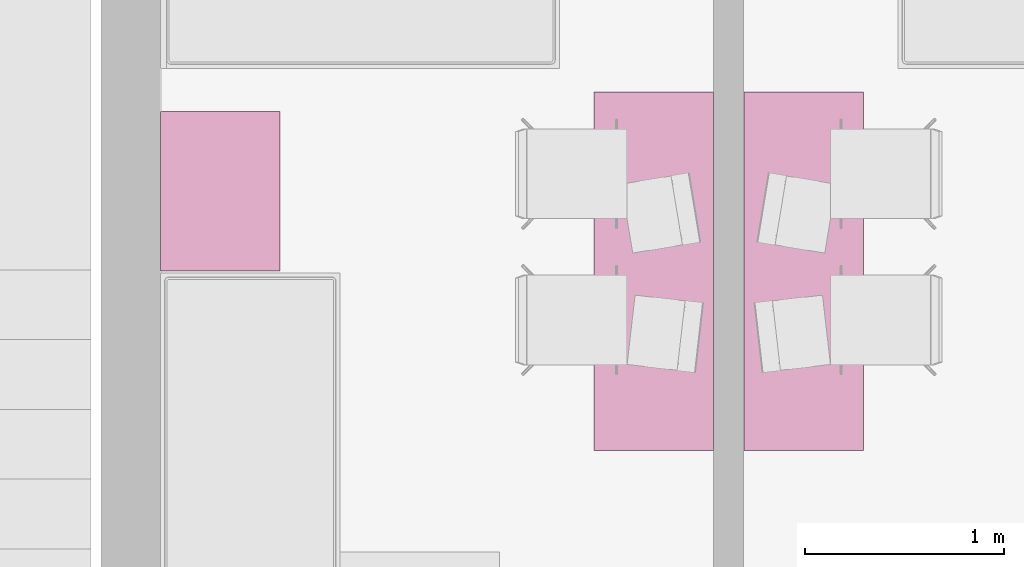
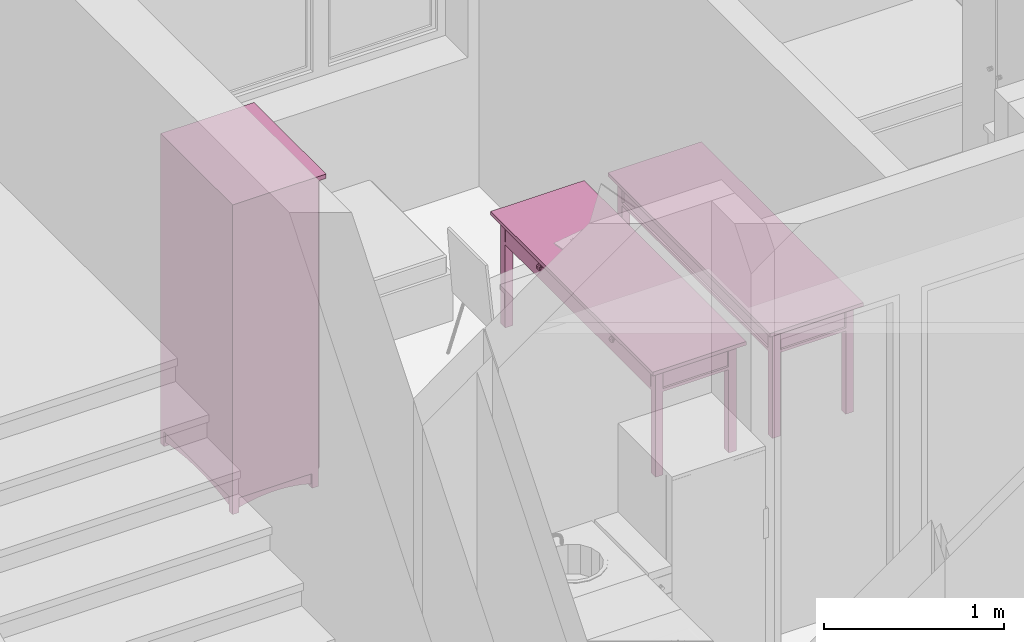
# One storey, part 128 of 165: 3 furnishings.
"""IFC2X3 building model written with IfcOpenShell, lengths in millimetres."""

from ifc_helpers import new_model, entity, si_unit, converted_unit, money_unit, direction, frame, origin_with_axes, place, context, subcontext, project, spatial, faceted_brep, source, transform, mapped, material, material_list, type_object, element, save


model = new_model("IFC2X3")

# Units and contexts
model_context = context("Model", 3, precision=1e-05, world=origin_with_axes(), true_north=direction((0.0, 1.0)))
body_context = subcontext(model_context, "Body", "Model", "MODEL_VIEW")
ifc_project = project(units=[si_unit("LENGTHUNIT", "METRE", prefix="MILLI"), si_unit("AREAUNIT", "SQUARE_METRE"), si_unit("VOLUMEUNIT", "CUBIC_METRE"), converted_unit("PLANEANGLEUNIT", "DEGREE", entity("IfcPlaneAngleMeasure", 0.0174532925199), si_unit("PLANEANGLEUNIT", "RADIAN"), dimensions=[0, 0, 0, 0, 0, 0, 0]), si_unit("SOLIDANGLEUNIT", "STERADIAN"), money_unit("USD"), converted_unit("TIMEUNIT", "Year", entity("IfcTimeMeasure", 31556926.0), si_unit("TIMEUNIT", "SECOND"), dimensions=[0, 0, 0, 0, 0, 0, 0]), si_unit("MASSUNIT", "GRAM"), si_unit("THERMODYNAMICTEMPERATUREUNIT", "DEGREE_CELSIUS"), si_unit("LUMINOUSINTENSITYUNIT", "LUMEN")], contexts=[model_context])

# Site, building, storey
site_placement = place(None, origin_with_axes())
site = spatial("IfcSite", under=ifc_project, at=site_placement, Name="Site", CompositionType="ELEMENT")
building_placement = place(site_placement, origin_with_axes())
building = spatial("IfcBuilding", under=site, at=building_placement, Name="Building", CompositionType="ELEMENT")
storey_placement = place(building_placement, frame((0.0, 0.0, 6300.0), z_axis=(0.0, 0.0, 1.0), x_axis=(1.0, 0.0, 0.0)))
storey = spatial("IfcBuildingStorey", under=building, at=storey_placement, Name="4KORRUS", CompositionType="ELEMENT", Elevation=6300.0)

# Furnishings
ifc_material = material(Name="Background")
ifc_material_list = material_list([ifc_material])
furnishing_element_type_1 = type_object("IfcFurnishingElementType", Name="Cupboard 19")
shared_shape_1 = source(origin_with_axes(), body_context, "Body", "Brep", [
    faceted_brep([(780.0, 600.0, 120.0), (780.0, 600.0, 2050.0), (780.0, 580.0, 2050.0), (780.0, 580.0, 120.0), (20.0, 600.0, 120.0), (20.0, 600.0, 2050.0), (20.0, 580.0, 2050.0), (20.0, 580.0, 120.0)], [[[0, 1, 2, 3]], [[4, 5, 1, 0]], [[1, 5, 6, 2]], [[3, 2, 6, 7]], [[0, 3, 7, 4]], [[7, 6, 5, 4]]]),
    faceted_brep([(0.0, 50.0, 100.0), (0.0, 600.0, 100.0), (20.0, 600.0, 100.0), (20.0, 50.0, 100.0), (0.0, 50.0, 2070.0), (0.0, 600.0, 2070.0), (20.0, 600.0, 2070.0), (20.0, 50.0, 2070.0)], [[[0, 1, 2, 3]], [[0, 4, 5, 1]], [[1, 5, 6, 2]], [[2, 6, 7, 3]], [[3, 7, 4, 0]], [[7, 6, 5, 4]]]),
    faceted_brep([(780.0, 50.0, 100.0), (780.0, 600.0, 100.0), (800.0, 600.0, 100.0), (800.0, 50.0, 100.0), (780.0, 50.0, 2070.0), (780.0, 600.0, 2070.0), (800.0, 600.0, 2070.0), (800.0, 50.0, 2070.0)], [[[0, 1, 2, 3]], [[0, 4, 5, 1]], [[1, 5, 6, 2]], [[2, 6, 7, 3]], [[3, 7, 4, 0]], [[7, 6, 5, 4]]]),
    faceted_brep([(20.0, 50.0, 100.0), (20.0, 600.0, 100.0), (780.0, 600.0, 100.0), (780.0, 50.0, 100.0), (20.0, 50.0, 120.0), (20.0, 600.0, 120.0), (780.0, 600.0, 120.0), (780.0, 50.0, 120.0)], [[[0, 1, 2, 3]], [[0, 4, 5, 1]], [[1, 5, 6, 2]], [[2, 6, 7, 3]], [[3, 7, 4, 0]], [[7, 6, 5, 4]]]),
    faceted_brep([(20.0, 50.0, 2050.0), (20.0, 600.0, 2050.0), (780.0, 600.0, 2050.0), (780.0, 50.0, 2050.0), (20.0, 50.0, 2070.0), (20.0, 600.0, 2070.0), (780.0, 600.0, 2070.0), (780.0, 50.0, 2070.0)], [[[0, 1, 2, 3]], [[0, 4, 5, 1]], [[1, 5, 6, 2]], [[2, 6, 7, 3]], [[3, 7, 4, 0]], [[7, 6, 5, 4]]]),
    faceted_brep([(0.0, 600.0, 2070.0), (0.0, 0.0, 2070.0), (0.0, 0.0, 2100.0), (0.0, 600.0, 2100.0), (800.0, 600.0, 2070.0), (800.0, 0.0, 2070.0), (800.0, 0.0, 2100.0), (800.0, 600.0, 2100.0)], [[[0, 1, 2, 3]], [[0, 4, 5, 1]], [[1, 5, 6, 2]], [[3, 2, 6, 7]], [[4, 0, 3, 7]], [[5, 4, 7, 6]]]),
    faceted_brep([(760.0, 590.0, 25.0), (760.0, 570.0, 25.0), (640.962, 570.0, 45.8), (640.962, 590.0, 45.8), (760.0, 590.0, 100.0), (760.0, 570.0, 100.0), (40.0, 570.0, 100.0), (40.0, 570.0, 25.0), (159.038, 570.0, 45.8), (279.23, 570.0, 58.32), (400.0, 570.0, 62.5), (520.77, 570.0, 58.32), (520.77, 590.0, 58.32), (400.0, 590.0, 62.5), (279.23, 590.0, 58.32), (159.038, 590.0, 45.8), (40.0, 590.0, 25.0), (40.0, 590.0, 100.0)], [[[0, 1, 2, 3]], [[4, 5, 1, 0]], [[1, 5, 6, 7, 8, 9, 10, 11, 2]], [[3, 2, 11, 12]], [[0, 3, 12, 13, 14, 15, 16, 17, 4]], [[17, 6, 5, 4]], [[16, 7, 6, 17]], [[15, 8, 7, 16]], [[14, 9, 8, 15]], [[13, 10, 9, 14]], [[12, 11, 10, 13]]]),
    faceted_brep([(760.0, 80.0, 25.0), (760.0, 60.0, 25.0), (640.962, 60.0, 45.8), (640.962, 80.0, 45.8), (760.0, 80.0, 100.0), (760.0, 60.0, 100.0), (40.0, 60.0, 100.0), (40.0, 60.0, 25.0), (159.038, 60.0, 45.8), (279.23, 60.0, 58.32), (400.0, 60.0, 62.5), (520.77, 60.0, 58.32), (520.77, 80.0, 58.32), (400.0, 80.0, 62.5), (279.23, 80.0, 58.32), (159.038, 80.0, 45.8), (40.0, 80.0, 25.0), (40.0, 80.0, 100.0)], [[[0, 1, 2, 3]], [[4, 5, 1, 0]], [[1, 5, 6, 7, 8, 9, 10, 11, 2]], [[3, 2, 11, 12]], [[0, 3, 12, 13, 14, 15, 16, 17, 4]], [[17, 6, 5, 4]], [[16, 7, 6, 17]], [[15, 8, 7, 16]], [[14, 9, 8, 15]], [[13, 10, 9, 14]], [[12, 11, 10, 13]]]),
    faceted_brep([(790.0, 90.0, 25.0), (770.0, 90.0, 25.0), (770.0, 141.266, 38.072), (790.0, 141.266, 38.072), (790.0, 90.0, 100.0), (770.0, 90.0, 100.0), (770.0, 560.0, 100.0), (770.0, 560.0, 25.0), (770.0, 508.734, 38.072), (770.0, 456.752, 47.92), (770.0, 404.257, 54.508), (770.0, 351.453, 57.808), (770.0, 298.547, 57.808), (770.0, 245.743, 54.508), (770.0, 193.248, 47.92), (790.0, 193.248, 47.92), (790.0, 245.743, 54.508), (790.0, 298.547, 57.808), (790.0, 351.453, 57.808), (790.0, 404.257, 54.508), (790.0, 456.752, 47.92), (790.0, 508.734, 38.072), (790.0, 560.0, 25.0), (790.0, 560.0, 100.0)], [[[0, 1, 2, 3]], [[4, 5, 1, 0]], [[1, 5, 6, 7, 8, 9, 10, 11, 12, 13, 14, 2]], [[3, 2, 14, 15]], [[0, 3, 15, 16, 17, 18, 19, 20, 21, 22, 23, 4]], [[23, 6, 5, 4]], [[22, 7, 6, 23]], [[21, 8, 7, 22]], [[20, 9, 8, 21]], [[19, 10, 9, 20]], [[18, 11, 10, 19]], [[17, 12, 11, 18]], [[16, 13, 12, 17]], [[15, 14, 13, 16]]]),
    faceted_brep([(30.0, 90.0, 25.0), (10.0, 90.0, 25.0), (10.0, 141.266, 38.072), (30.0, 141.266, 38.072), (30.0, 90.0, 100.0), (10.0, 90.0, 100.0), (10.0, 560.0, 100.0), (10.0, 560.0, 25.0), (10.0, 508.734, 38.072), (10.0, 456.752, 47.92), (10.0, 404.257, 54.508), (10.0, 351.453, 57.808), (10.0, 298.547, 57.808), (10.0, 245.743, 54.508), (10.0, 193.248, 47.92), (30.0, 193.248, 47.92), (30.0, 245.743, 54.508), (30.0, 298.547, 57.808), (30.0, 351.453, 57.808), (30.0, 404.257, 54.508), (30.0, 456.752, 47.92), (30.0, 508.734, 38.072), (30.0, 560.0, 25.0), (30.0, 560.0, 100.0)], [[[0, 1, 2, 3]], [[4, 5, 1, 0]], [[1, 5, 6, 7, 8, 9, 10, 11, 12, 13, 14, 2]], [[3, 2, 14, 15]], [[0, 3, 15, 16, 17, 18, 19, 20, 21, 22, 23, 4]], [[23, 6, 5, 4]], [[22, 7, 6, 23]], [[21, 8, 7, 22]], [[20, 9, 8, 21]], [[19, 10, 9, 20]], [[18, 11, 10, 19]], [[17, 12, 11, 18]], [[16, 13, 12, 17]], [[15, 14, 13, 16]]]),
    faceted_brep([(760.0, 560.0, 0.0), (760.0, 560.0, 100.0), (760.0, 600.0, 100.0), (760.0, 600.0, 0.0), (800.0, 560.0, 0.0), (800.0, 560.0, 100.0), (800.0, 600.0, 100.0), (800.0, 600.0, 0.0)], [[[0, 1, 2, 3]], [[4, 5, 1, 0]], [[1, 5, 6, 2]], [[3, 2, 6, 7]], [[0, 3, 7, 4]], [[7, 6, 5, 4]]]),
    faceted_brep([(0.0, 560.0, 0.0), (0.0, 560.0, 100.0), (0.0, 600.0, 100.0), (0.0, 600.0, 0.0), (40.0, 560.0, 0.0), (40.0, 560.0, 100.0), (40.0, 600.0, 100.0), (40.0, 600.0, 0.0)], [[[0, 1, 2, 3]], [[4, 5, 1, 0]], [[1, 5, 6, 2]], [[3, 2, 6, 7]], [[0, 3, 7, 4]], [[7, 6, 5, 4]]]),
    faceted_brep([(760.0, 50.0, 0.0), (760.0, 50.0, 100.0), (760.0, 90.0, 100.0), (760.0, 90.0, 0.0), (800.0, 50.0, 0.0), (800.0, 50.0, 100.0), (800.0, 90.0, 100.0), (800.0, 90.0, 0.0)], [[[0, 1, 2, 3]], [[4, 5, 1, 0]], [[1, 5, 6, 2]], [[3, 2, 6, 7]], [[0, 3, 7, 4]], [[7, 6, 5, 4]]]),
    faceted_brep([(0.0, 50.0, 0.0), (0.0, 50.0, 100.0), (0.0, 90.0, 100.0), (0.0, 90.0, 0.0), (40.0, 50.0, 0.0), (40.0, 50.0, 100.0), (40.0, 90.0, 100.0), (40.0, 90.0, 0.0)], [[[0, 1, 2, 3]], [[4, 5, 1, 0]], [[1, 5, 6, 2]], [[3, 2, 6, 7]], [[0, 3, 7, 4]], [[7, 6, 5, 4]]]),
    faceted_brep([(780.0, 580.0, 587.5), (780.0, 580.0, 607.5), (780.0, 50.0, 607.5), (780.0, 50.0, 587.5), (20.0, 580.0, 587.5), (20.0, 580.0, 607.5), (20.0, 50.0, 607.5), (20.0, 50.0, 587.5)], [[[0, 1, 2, 3]], [[4, 5, 1, 0]], [[1, 5, 6, 2]], [[3, 2, 6, 7]], [[0, 3, 7, 4]], [[7, 6, 5, 4]]]),
    faceted_brep([(780.0, 580.0, 1075.0), (780.0, 580.0, 1095.0), (780.0, 50.0, 1095.0), (780.0, 50.0, 1075.0), (20.0, 580.0, 1075.0), (20.0, 580.0, 1095.0), (20.0, 50.0, 1095.0), (20.0, 50.0, 1075.0)], [[[0, 1, 2, 3]], [[4, 5, 1, 0]], [[1, 5, 6, 2]], [[3, 2, 6, 7]], [[0, 3, 7, 4]], [[7, 6, 5, 4]]]),
    faceted_brep([(780.0, 580.0, 1562.5), (780.0, 580.0, 1582.5), (780.0, 50.0, 1582.5), (780.0, 50.0, 1562.5), (20.0, 580.0, 1562.5), (20.0, 580.0, 1582.5), (20.0, 50.0, 1582.5), (20.0, 50.0, 1562.5)], [[[0, 1, 2, 3]], [[4, 5, 1, 0]], [[1, 5, 6, 2]], [[3, 2, 6, 7]], [[0, 3, 7, 4]], [[7, 6, 5, 4]]]),
    faceted_brep([(789.5, 50.0, 110.5), (400.5, 50.0, 110.5), (400.5, 50.0, 2059.5), (789.5, 50.0, 2059.5), (789.5, 40.0, 110.5), (400.5, 40.0, 110.5), (400.5, 40.0, 2059.5), (789.5, 40.0, 2059.5), (779.5, 30.0, 120.5), (410.5, 30.0, 120.5), (410.5, 30.0, 2049.5), (779.5, 30.0, 2049.5)], [[[0, 1, 2, 3]], [[0, 4, 5, 1]], [[1, 5, 6, 2]], [[2, 6, 7, 3]], [[3, 7, 4, 0]], [[4, 8, 9, 5]], [[5, 9, 10, 6]], [[6, 10, 11, 7]], [[7, 11, 8, 4]], [[10, 9, 8, 11]]]),
    faceted_brep([(399.5, 50.0, 110.5), (10.5, 50.0, 110.5), (10.5, 50.0, 2059.5), (399.5, 50.0, 2059.5), (399.5, 40.0, 110.5), (10.5, 40.0, 110.5), (10.5, 40.0, 2059.5), (399.5, 40.0, 2059.5), (389.5, 30.0, 120.5), (20.5, 30.0, 120.5), (20.5, 30.0, 2049.5), (389.5, 30.0, 2049.5)], [[[0, 1, 2, 3]], [[0, 4, 5, 1]], [[1, 5, 6, 2]], [[2, 6, 7, 3]], [[3, 7, 4, 0]], [[4, 8, 9, 5]], [[5, 9, 10, 6]], [[6, 10, 11, 7]], [[7, 11, 8, 4]], [[10, 9, 8, 11]]]),
    faceted_brep([(339.608, 30.0, 954.0), (338.0, 30.0, 960.0), (339.608, 30.0, 966.0), (344.0, 30.0, 970.392), (350.0, 30.0, 972.0), (356.0, 30.0, 970.392), (360.392, 30.0, 966.0), (362.0, 30.0, 960.0), (360.392, 30.0, 954.0), (356.0, 30.0, 949.608), (350.0, 30.0, 948.0), (344.0, 30.0, 949.608), (339.608, 5.0, 954.0), (338.0, 5.0, 960.0), (339.608, 5.0, 966.0), (344.0, 5.0, 970.392), (350.0, 5.0, 972.0), (356.0, 5.0, 970.392), (360.392, 5.0, 966.0), (362.0, 5.0, 960.0), (360.392, 5.0, 954.0), (356.0, 5.0, 949.608), (350.0, 5.0, 948.0), (344.0, 5.0, 949.608)], [[[0, 1, 2, 3, 4, 5, 6, 7, 8, 9, 10, 11]], [[0, 12, 13, 1]], [[1, 13, 14, 2]], [[2, 14, 15, 3]], [[3, 15, 16, 4]], [[4, 16, 17, 5]], [[5, 17, 18, 6]], [[6, 18, 19, 7]], [[7, 19, 20, 8]], [[8, 20, 21, 9]], [[9, 21, 22, 10]], [[10, 22, 23, 11]], [[11, 23, 12, 0]], [[12, 23, 22, 21, 20, 19, 18, 17, 16, 15, 14, 13]]]),
    faceted_brep([(460.392, 30.0, 954.0), (456.0, 30.0, 949.608), (450.0, 30.0, 948.0), (444.0, 30.0, 949.608), (439.608, 30.0, 954.0), (438.0, 30.0, 960.0), (439.608, 30.0, 966.0), (444.0, 30.0, 970.392), (450.0, 30.0, 972.0), (456.0, 30.0, 970.392), (460.392, 30.0, 966.0), (462.0, 30.0, 960.0), (460.392, 5.0, 954.0), (456.0, 5.0, 949.608), (450.0, 5.0, 948.0), (444.0, 5.0, 949.608), (439.608, 5.0, 954.0), (438.0, 5.0, 960.0), (439.608, 5.0, 966.0), (444.0, 5.0, 970.392), (450.0, 5.0, 972.0), (456.0, 5.0, 970.392), (460.392, 5.0, 966.0), (462.0, 5.0, 960.0)], [[[0, 1, 2, 3, 4, 5, 6, 7, 8, 9, 10, 11]], [[1, 0, 12, 13]], [[2, 1, 13, 14]], [[3, 2, 14, 15]], [[4, 3, 15, 16]], [[5, 4, 16, 17]], [[6, 5, 17, 18]], [[7, 6, 18, 19]], [[8, 7, 19, 20]], [[9, 8, 20, 21]], [[10, 9, 21, 22]], [[11, 10, 22, 23]], [[0, 11, 23, 12]], [[12, 23, 22, 21, 20, 19, 18, 17, 16, 15, 14, 13]]]),
])
furnishing_1_placement = place(storey_placement, frame((-5390.29670331, -7206.41563755, 0.0), z_axis=(0.0, 0.0, 1.0), x_axis=(0.0, 1.0, 0.0)))
element("IfcFurnishingElement", 1, at=furnishing_1_placement, inside=storey, type_object=furnishing_element_type_1, material=ifc_material_list, Name="FU - 014", context=body_context, shape_type="MappedRepresentation", body=[
    mapped(shared_shape_1, transform((0.0, 0.0, 0.0))),
])
furnishing_element_type_2 = type_object("IfcFurnishingElementType", Name="Rectangular Table 01 19")
shared_shape_2 = source(origin_with_axes(), body_context, "Body", "Brep", [
    faceted_brep([(-90.0, 40.0, 0.0), (-90.0, 90.0, 0.0), (-40.0, 90.0, 0.0), (-40.0, 40.0, 0.0), (-90.0, 40.0, 725.0), (-90.0, 90.0, 725.0), (-40.0, 90.0, 725.0), (-40.0, 40.0, 725.0)], [[[0, 1, 2, 3]], [[0, 4, 5, 1]], [[1, 5, 6, 2]], [[2, 6, 7, 3]], [[3, 7, 4, 0]], [[7, 6, 5, 4]]]),
    faceted_brep([(-1760.0, 40.0, 0.0), (-1760.0, 90.0, 0.0), (-1710.0, 90.0, 0.0), (-1710.0, 40.0, 0.0), (-1760.0, 40.0, 725.0), (-1760.0, 90.0, 725.0), (-1710.0, 90.0, 725.0), (-1710.0, 40.0, 725.0)], [[[0, 1, 2, 3]], [[0, 4, 5, 1]], [[1, 5, 6, 2]], [[2, 6, 7, 3]], [[3, 7, 4, 0]], [[7, 6, 5, 4]]]),
    faceted_brep([(-90.0, 510.0, 0.0), (-90.0, 560.0, 0.0), (-40.0, 560.0, 0.0), (-40.0, 510.0, 0.0), (-90.0, 510.0, 725.0), (-90.0, 560.0, 725.0), (-40.0, 560.0, 725.0), (-40.0, 510.0, 725.0)], [[[0, 1, 2, 3]], [[0, 4, 5, 1]], [[1, 5, 6, 2]], [[2, 6, 7, 3]], [[3, 7, 4, 0]], [[7, 6, 5, 4]]]),
    faceted_brep([(-1760.0, 510.0, 0.0), (-1760.0, 560.0, 0.0), (-1710.0, 560.0, 0.0), (-1710.0, 510.0, 0.0), (-1760.0, 510.0, 725.0), (-1760.0, 560.0, 725.0), (-1710.0, 560.0, 725.0), (-1710.0, 510.0, 725.0)], [[[0, 1, 2, 3]], [[0, 4, 5, 1]], [[1, 5, 6, 2]], [[2, 6, 7, 3]], [[3, 7, 4, 0]], [[7, 6, 5, 4]]]),
    faceted_brep([(-1760.0, 40.0, 565.0), (-1760.0, 560.0, 565.0), (-40.0, 560.0, 565.0), (-40.0, 40.0, 565.0), (-1760.0, 40.0, 585.0), (-1760.0, 560.0, 585.0), (-40.0, 560.0, 585.0), (-40.0, 40.0, 585.0)], [[[0, 1, 2, 3]], [[0, 4, 5, 1]], [[1, 5, 6, 2]], [[2, 6, 7, 3]], [[3, 7, 4, 0]], [[7, 6, 5, 4]]]),
    faceted_brep([(-1710.0, 52.5, 585.0), (-1710.0, 77.5, 585.0), (-90.0, 77.5, 585.0), (-90.0, 52.5, 585.0), (-1710.0, 52.5, 745.0), (-1710.0, 77.5, 745.0), (-90.0, 77.5, 745.0), (-90.0, 52.5, 745.0)], [[[0, 1, 2, 3]], [[0, 4, 5, 1]], [[1, 5, 6, 2]], [[2, 6, 7, 3]], [[3, 7, 4, 0]], [[7, 6, 5, 4]]]),
    faceted_brep([(-77.5, 90.0, 585.0), (-77.5, 510.0, 585.0), (-52.5, 510.0, 585.0), (-52.5, 90.0, 585.0), (-77.5, 90.0, 745.0), (-77.5, 510.0, 745.0), (-52.5, 510.0, 745.0), (-52.5, 90.0, 745.0)], [[[0, 1, 2, 3]], [[0, 4, 5, 1]], [[1, 5, 6, 2]], [[2, 6, 7, 3]], [[3, 7, 4, 0]], [[7, 6, 5, 4]]]),
    faceted_brep([(-90.0, 547.5, 585.0), (-90.0, 522.5, 585.0), (-1710.0, 522.5, 585.0), (-1710.0, 547.5, 585.0), (-90.0, 547.5, 745.0), (-90.0, 522.5, 745.0), (-1710.0, 522.5, 745.0), (-1710.0, 547.5, 745.0)], [[[0, 1, 2, 3]], [[0, 4, 5, 1]], [[1, 5, 6, 2]], [[2, 6, 7, 3]], [[3, 7, 4, 0]], [[7, 6, 5, 4]]]),
    faceted_brep([(-1722.5, 510.0, 585.0), (-1722.5, 90.0, 585.0), (-1747.5, 90.0, 585.0), (-1747.5, 510.0, 585.0), (-1722.5, 510.0, 745.0), (-1722.5, 90.0, 745.0), (-1747.5, 90.0, 745.0), (-1747.5, 510.0, 745.0)], [[[0, 1, 2, 3]], [[0, 4, 5, 1]], [[1, 5, 6, 2]], [[2, 6, 7, 3]], [[3, 7, 4, 0]], [[7, 6, 5, 4]]]),
    faceted_brep([(-897.5, 40.0, 585.0), (-897.5, 60.0, 585.0), (-95.0, 60.0, 585.0), (-95.0, 40.0, 585.0), (-897.5, 40.0, 745.0), (-897.5, 60.0, 745.0), (-95.0, 60.0, 745.0), (-95.0, 40.0, 745.0)], [[[0, 1, 2, 3]], [[0, 4, 5, 1]], [[1, 5, 6, 2]], [[2, 6, 7, 3]], [[3, 7, 4, 0]], [[7, 6, 5, 4]]]),
    faceted_brep([(-1705.0, 40.0, 585.0), (-1705.0, 60.0, 585.0), (-902.5, 60.0, 585.0), (-902.5, 40.0, 585.0), (-1705.0, 40.0, 745.0), (-1705.0, 60.0, 745.0), (-902.5, 60.0, 745.0), (-902.5, 40.0, 745.0)], [[[0, 1, 2, 3]], [[0, 4, 5, 1]], [[1, 5, 6, 2]], [[2, 6, 7, 3]], [[3, 7, 4, 0]], [[7, 6, 5, 4]]]),
    faceted_brep([(-504.91, 40.0, 660.0), (-506.25, 40.0, 665.0), (-504.91, 40.0, 670.0), (-501.25, 40.0, 673.66), (-496.25, 40.0, 675.0), (-491.25, 40.0, 673.66), (-487.59, 40.0, 670.0), (-486.25, 40.0, 665.0), (-487.59, 40.0, 660.0), (-491.25, 40.0, 656.34), (-496.25, 40.0, 655.0), (-501.25, 40.0, 656.34), (-504.91, 25.0, 660.0), (-506.25, 25.0, 665.0), (-504.91, 25.0, 670.0), (-501.25, 25.0, 673.66), (-496.25, 25.0, 675.0), (-491.25, 25.0, 673.66), (-487.59, 25.0, 670.0), (-486.25, 25.0, 665.0), (-487.59, 25.0, 660.0), (-491.25, 25.0, 656.34), (-496.25, 25.0, 655.0), (-501.25, 25.0, 656.34)], [[[0, 1, 2, 3, 4, 5, 6, 7, 8, 9, 10, 11]], [[0, 12, 13, 1]], [[1, 13, 14, 2]], [[2, 14, 15, 3]], [[3, 15, 16, 4]], [[4, 16, 17, 5]], [[5, 17, 18, 6]], [[6, 18, 19, 7]], [[7, 19, 20, 8]], [[8, 20, 21, 9]], [[9, 21, 22, 10]], [[10, 22, 23, 11]], [[11, 23, 12, 0]], [[12, 23, 22, 21, 20, 19, 18, 17, 16, 15, 14, 13]]]),
    faceted_brep([(-506.25, 12.01, 665.0), (-504.91, 12.01, 660.0), (-496.25, 10.0, 665.0), (-513.571, 17.5, 665.0), (-511.25, 17.5, 656.34), (-501.25, 12.01, 656.34), (-504.91, 12.01, 670.0), (-516.25, 25.0, 665.0), (-513.571, 25.0, 655.0), (-504.91, 17.5, 650.0), (-511.25, 17.5, 673.66), (-496.25, 12.01, 655.0), (-501.25, 12.01, 673.66), (-513.571, 25.0, 675.0), (-506.25, 25.0, 682.321), (-496.25, 25.0, 685.0), (-486.25, 25.0, 682.321), (-478.929, 25.0, 675.0), (-476.25, 25.0, 665.0), (-478.929, 25.0, 655.0), (-486.25, 25.0, 647.679), (-496.25, 25.0, 645.0), (-506.25, 25.0, 647.679), (-496.25, 17.5, 647.679), (-504.91, 17.5, 680.0), (-491.25, 12.01, 656.34), (-496.25, 12.01, 675.0), (-496.25, 17.5, 682.321), (-487.59, 17.5, 680.0), (-481.25, 17.5, 673.66), (-478.929, 17.5, 665.0), (-481.25, 17.5, 656.34), (-487.59, 17.5, 650.0), (-487.59, 12.01, 660.0), (-491.25, 12.01, 673.66), (-487.59, 12.01, 670.0), (-486.25, 12.01, 665.0)], [[[0, 1, 2]], [[3, 4, 1, 0]], [[1, 5, 2]], [[6, 0, 2]], [[7, 8, 4, 3]], [[4, 9, 5, 1]], [[10, 3, 0, 6]], [[5, 11, 2]], [[12, 6, 2]], [[8, 7, 13, 14, 15, 16, 17, 18, 19, 20, 21, 22]], [[8, 22, 9, 4]], [[13, 7, 3, 10]], [[9, 23, 11, 5]], [[24, 10, 6, 12]], [[11, 25, 2]], [[26, 12, 2]], [[14, 13, 10, 24]], [[15, 14, 24, 27]], [[16, 15, 27, 28]], [[17, 16, 28, 29]], [[18, 17, 29, 30]], [[19, 18, 30, 31]], [[20, 19, 31, 32]], [[21, 20, 32, 23]], [[22, 21, 23, 9]], [[23, 32, 25, 11]], [[27, 24, 12, 26]], [[25, 33, 2]], [[34, 26, 2]], [[28, 27, 26, 34]], [[29, 28, 34, 35]], [[30, 29, 35, 36]], [[31, 30, 36, 33]], [[32, 31, 33, 25]], [[33, 36, 2]], [[35, 34, 2]], [[36, 35, 2]]]),
    faceted_brep([(-1312.41, 40.0, 660.0), (-1313.75, 40.0, 665.0), (-1312.41, 40.0, 670.0), (-1308.75, 40.0, 673.66), (-1303.75, 40.0, 675.0), (-1298.75, 40.0, 673.66), (-1295.09, 40.0, 670.0), (-1293.75, 40.0, 665.0), (-1295.09, 40.0, 660.0), (-1298.75, 40.0, 656.34), (-1303.75, 40.0, 655.0), (-1308.75, 40.0, 656.34), (-1312.41, 25.0, 660.0), (-1313.75, 25.0, 665.0), (-1312.41, 25.0, 670.0), (-1308.75, 25.0, 673.66), (-1303.75, 25.0, 675.0), (-1298.75, 25.0, 673.66), (-1295.09, 25.0, 670.0), (-1293.75, 25.0, 665.0), (-1295.09, 25.0, 660.0), (-1298.75, 25.0, 656.34), (-1303.75, 25.0, 655.0), (-1308.75, 25.0, 656.34)], [[[0, 1, 2, 3, 4, 5, 6, 7, 8, 9, 10, 11]], [[0, 12, 13, 1]], [[1, 13, 14, 2]], [[2, 14, 15, 3]], [[3, 15, 16, 4]], [[4, 16, 17, 5]], [[5, 17, 18, 6]], [[6, 18, 19, 7]], [[7, 19, 20, 8]], [[8, 20, 21, 9]], [[9, 21, 22, 10]], [[10, 22, 23, 11]], [[11, 23, 12, 0]], [[12, 23, 22, 21, 20, 19, 18, 17, 16, 15, 14, 13]]]),
    faceted_brep([(-1313.75, 12.01, 665.0), (-1312.41, 12.01, 660.0), (-1303.75, 10.0, 665.0), (-1321.071, 17.5, 665.0), (-1318.75, 17.5, 656.34), (-1308.75, 12.01, 656.34), (-1312.41, 12.01, 670.0), (-1323.75, 25.0, 665.0), (-1321.071, 25.0, 655.0), (-1312.41, 17.5, 650.0), (-1318.75, 17.5, 673.66), (-1303.75, 12.01, 655.0), (-1308.75, 12.01, 673.66), (-1321.071, 25.0, 675.0), (-1313.75, 25.0, 682.321), (-1303.75, 25.0, 685.0), (-1293.75, 25.0, 682.321), (-1286.429, 25.0, 675.0), (-1283.75, 25.0, 665.0), (-1286.429, 25.0, 655.0), (-1293.75, 25.0, 647.679), (-1303.75, 25.0, 645.0), (-1313.75, 25.0, 647.679), (-1303.75, 17.5, 647.679), (-1312.41, 17.5, 680.0), (-1298.75, 12.01, 656.34), (-1303.75, 12.01, 675.0), (-1303.75, 17.5, 682.321), (-1295.09, 17.5, 680.0), (-1288.75, 17.5, 673.66), (-1286.429, 17.5, 665.0), (-1288.75, 17.5, 656.34), (-1295.09, 17.5, 650.0), (-1295.09, 12.01, 660.0), (-1298.75, 12.01, 673.66), (-1295.09, 12.01, 670.0), (-1293.75, 12.01, 665.0)], [[[0, 1, 2]], [[3, 4, 1, 0]], [[1, 5, 2]], [[6, 0, 2]], [[7, 8, 4, 3]], [[4, 9, 5, 1]], [[10, 3, 0, 6]], [[5, 11, 2]], [[12, 6, 2]], [[8, 7, 13, 14, 15, 16, 17, 18, 19, 20, 21, 22]], [[8, 22, 9, 4]], [[13, 7, 3, 10]], [[9, 23, 11, 5]], [[24, 10, 6, 12]], [[11, 25, 2]], [[26, 12, 2]], [[14, 13, 10, 24]], [[15, 14, 24, 27]], [[16, 15, 27, 28]], [[17, 16, 28, 29]], [[18, 17, 29, 30]], [[19, 18, 30, 31]], [[20, 19, 31, 32]], [[21, 20, 32, 23]], [[22, 21, 23, 9]], [[23, 32, 25, 11]], [[27, 24, 12, 26]], [[25, 33, 2]], [[34, 26, 2]], [[28, 27, 26, 34]], [[29, 28, 34, 35]], [[30, 29, 35, 36]], [[31, 30, 36, 33]], [[32, 31, 33, 25]], [[33, 36, 2]], [[35, 34, 2]], [[36, 35, 2]]]),
    faceted_brep([(-1800.0, 0.0, 725.0), (-1800.0, 600.0, 725.0), (0.0, 600.0, 725.0), (0.0, 0.0, 725.0), (-1800.0, 0.0, 750.0), (-1800.0, 600.0, 750.0), (0.0, 600.0, 750.0), (0.0, 0.0, 750.0)], [[[0, 1, 2, 3]], [[0, 4, 5, 1]], [[1, 5, 6, 2]], [[2, 6, 7, 3]], [[3, 7, 4, 0]], [[7, 6, 5, 4]]]),
])
furnishing_2_placement = place(storey_placement, frame((-2464.84988372, -6307.26959818, 0.0), z_axis=(0.0, 0.0, 1.0), x_axis=(0.0, 1.0, 0.0)))
element("IfcFurnishingElement", 2, at=furnishing_2_placement, inside=storey, type_object=furnishing_element_type_2, material=ifc_material_list, Name="FU - 011", context=body_context, shape_type="MappedRepresentation", body=[
    mapped(shared_shape_2, transform((0.0, 0.0, 0.0))),
])
shared_shape_3 = source(origin_with_axes(), body_context, "Body", "Brep", [
    faceted_brep([(90.0, 40.0, 0.0), (40.0, 40.0, 0.0), (40.0, 90.0, 0.0), (90.0, 90.0, 0.0), (90.0, 40.0, 725.0), (40.0, 40.0, 725.0), (40.0, 90.0, 725.0), (90.0, 90.0, 725.0)], [[[0, 1, 2, 3]], [[1, 0, 4, 5]], [[2, 1, 5, 6]], [[3, 2, 6, 7]], [[0, 3, 7, 4]], [[5, 4, 7, 6]]]),
    faceted_brep([(1760.0, 40.0, 0.0), (1710.0, 40.0, 0.0), (1710.0, 90.0, 0.0), (1760.0, 90.0, 0.0), (1760.0, 40.0, 725.0), (1710.0, 40.0, 725.0), (1710.0, 90.0, 725.0), (1760.0, 90.0, 725.0)], [[[0, 1, 2, 3]], [[1, 0, 4, 5]], [[2, 1, 5, 6]], [[3, 2, 6, 7]], [[0, 3, 7, 4]], [[5, 4, 7, 6]]]),
    faceted_brep([(90.0, 510.0, 0.0), (40.0, 510.0, 0.0), (40.0, 560.0, 0.0), (90.0, 560.0, 0.0), (90.0, 510.0, 725.0), (40.0, 510.0, 725.0), (40.0, 560.0, 725.0), (90.0, 560.0, 725.0)], [[[0, 1, 2, 3]], [[1, 0, 4, 5]], [[2, 1, 5, 6]], [[3, 2, 6, 7]], [[0, 3, 7, 4]], [[5, 4, 7, 6]]]),
    faceted_brep([(1760.0, 510.0, 0.0), (1710.0, 510.0, 0.0), (1710.0, 560.0, 0.0), (1760.0, 560.0, 0.0), (1760.0, 510.0, 725.0), (1710.0, 510.0, 725.0), (1710.0, 560.0, 725.0), (1760.0, 560.0, 725.0)], [[[0, 1, 2, 3]], [[1, 0, 4, 5]], [[2, 1, 5, 6]], [[3, 2, 6, 7]], [[0, 3, 7, 4]], [[5, 4, 7, 6]]]),
    faceted_brep([(1760.0, 40.0, 565.0), (40.0, 40.0, 565.0), (40.0, 560.0, 565.0), (1760.0, 560.0, 565.0), (1760.0, 40.0, 585.0), (40.0, 40.0, 585.0), (40.0, 560.0, 585.0), (1760.0, 560.0, 585.0)], [[[0, 1, 2, 3]], [[1, 0, 4, 5]], [[2, 1, 5, 6]], [[3, 2, 6, 7]], [[0, 3, 7, 4]], [[5, 4, 7, 6]]]),
    faceted_brep([(1710.0, 52.5, 585.0), (90.0, 52.5, 585.0), (90.0, 77.5, 585.0), (1710.0, 77.5, 585.0), (1710.0, 52.5, 745.0), (90.0, 52.5, 745.0), (90.0, 77.5, 745.0), (1710.0, 77.5, 745.0)], [[[0, 1, 2, 3]], [[1, 0, 4, 5]], [[2, 1, 5, 6]], [[3, 2, 6, 7]], [[0, 3, 7, 4]], [[5, 4, 7, 6]]]),
    faceted_brep([(77.5, 90.0, 585.0), (52.5, 90.0, 585.0), (52.5, 510.0, 585.0), (77.5, 510.0, 585.0), (77.5, 90.0, 745.0), (52.5, 90.0, 745.0), (52.5, 510.0, 745.0), (77.5, 510.0, 745.0)], [[[0, 1, 2, 3]], [[1, 0, 4, 5]], [[2, 1, 5, 6]], [[3, 2, 6, 7]], [[0, 3, 7, 4]], [[5, 4, 7, 6]]]),
    faceted_brep([(90.0, 547.5, 585.0), (1710.0, 547.5, 585.0), (1710.0, 522.5, 585.0), (90.0, 522.5, 585.0), (90.0, 547.5, 745.0), (1710.0, 547.5, 745.0), (1710.0, 522.5, 745.0), (90.0, 522.5, 745.0)], [[[0, 1, 2, 3]], [[1, 0, 4, 5]], [[2, 1, 5, 6]], [[3, 2, 6, 7]], [[0, 3, 7, 4]], [[5, 4, 7, 6]]]),
    faceted_brep([(1722.5, 510.0, 585.0), (1747.5, 510.0, 585.0), (1747.5, 90.0, 585.0), (1722.5, 90.0, 585.0), (1722.5, 510.0, 745.0), (1747.5, 510.0, 745.0), (1747.5, 90.0, 745.0), (1722.5, 90.0, 745.0)], [[[0, 1, 2, 3]], [[1, 0, 4, 5]], [[2, 1, 5, 6]], [[3, 2, 6, 7]], [[0, 3, 7, 4]], [[5, 4, 7, 6]]]),
    faceted_brep([(897.5, 40.0, 585.0), (95.0, 40.0, 585.0), (95.0, 60.0, 585.0), (897.5, 60.0, 585.0), (897.5, 40.0, 745.0), (95.0, 40.0, 745.0), (95.0, 60.0, 745.0), (897.5, 60.0, 745.0)], [[[0, 1, 2, 3]], [[1, 0, 4, 5]], [[2, 1, 5, 6]], [[3, 2, 6, 7]], [[0, 3, 7, 4]], [[5, 4, 7, 6]]]),
    faceted_brep([(1705.0, 40.0, 585.0), (902.5, 40.0, 585.0), (902.5, 60.0, 585.0), (1705.0, 60.0, 585.0), (1705.0, 40.0, 745.0), (902.5, 40.0, 745.0), (902.5, 60.0, 745.0), (1705.0, 60.0, 745.0)], [[[0, 1, 2, 3]], [[1, 0, 4, 5]], [[2, 1, 5, 6]], [[3, 2, 6, 7]], [[0, 3, 7, 4]], [[5, 4, 7, 6]]]),
    faceted_brep([(504.91, 40.0, 660.0), (501.25, 40.0, 656.34), (496.25, 40.0, 655.0), (491.25, 40.0, 656.34), (487.59, 40.0, 660.0), (486.25, 40.0, 665.0), (487.59, 40.0, 670.0), (491.25, 40.0, 673.66), (496.25, 40.0, 675.0), (501.25, 40.0, 673.66), (504.91, 40.0, 670.0), (506.25, 40.0, 665.0), (504.91, 25.0, 660.0), (501.25, 25.0, 656.34), (496.25, 25.0, 655.0), (491.25, 25.0, 656.34), (487.59, 25.0, 660.0), (486.25, 25.0, 665.0), (487.59, 25.0, 670.0), (491.25, 25.0, 673.66), (496.25, 25.0, 675.0), (501.25, 25.0, 673.66), (504.91, 25.0, 670.0), (506.25, 25.0, 665.0)], [[[0, 1, 2, 3, 4, 5, 6, 7, 8, 9, 10, 11]], [[1, 0, 12, 13]], [[2, 1, 13, 14]], [[3, 2, 14, 15]], [[4, 3, 15, 16]], [[5, 4, 16, 17]], [[6, 5, 17, 18]], [[7, 6, 18, 19]], [[8, 7, 19, 20]], [[9, 8, 20, 21]], [[10, 9, 21, 22]], [[11, 10, 22, 23]], [[0, 11, 23, 12]], [[12, 23, 22, 21, 20, 19, 18, 17, 16, 15, 14, 13]]]),
    faceted_brep([(506.25, 12.01, 665.0), (496.25, 10.0, 665.0), (504.91, 12.01, 660.0), (504.91, 12.01, 670.0), (501.25, 12.01, 656.34), (513.571, 17.5, 665.0), (511.25, 17.5, 656.34), (501.25, 12.01, 673.66), (511.25, 17.5, 673.66), (496.25, 12.01, 655.0), (504.91, 17.5, 650.0), (516.25, 25.0, 665.0), (513.571, 25.0, 655.0), (496.25, 12.01, 675.0), (504.91, 17.5, 680.0), (513.571, 25.0, 675.0), (491.25, 12.01, 656.34), (496.25, 17.5, 647.679), (506.25, 25.0, 647.679), (496.25, 25.0, 645.0), (486.25, 25.0, 647.679), (478.929, 25.0, 655.0), (476.25, 25.0, 665.0), (478.929, 25.0, 675.0), (486.25, 25.0, 682.321), (496.25, 25.0, 685.0), (506.25, 25.0, 682.321), (491.25, 12.01, 673.66), (496.25, 17.5, 682.321), (487.59, 12.01, 660.0), (487.59, 17.5, 650.0), (481.25, 17.5, 656.34), (478.929, 17.5, 665.0), (481.25, 17.5, 673.66), (487.59, 17.5, 680.0), (487.59, 12.01, 670.0), (486.25, 12.01, 665.0)], [[[0, 1, 2]], [[3, 1, 0]], [[2, 1, 4]], [[5, 0, 2, 6]], [[7, 1, 3]], [[8, 3, 0, 5]], [[4, 1, 9]], [[6, 2, 4, 10]], [[11, 5, 6, 12]], [[13, 1, 7]], [[14, 7, 3, 8]], [[15, 8, 5, 11]], [[9, 1, 16]], [[10, 4, 9, 17]], [[12, 6, 10, 18]], [[12, 18, 19, 20, 21, 22, 23, 24, 25, 26, 15, 11]], [[27, 1, 13]], [[28, 13, 7, 14]], [[26, 14, 8, 15]], [[16, 1, 29]], [[17, 9, 16, 30]], [[18, 10, 17, 19]], [[19, 17, 30, 20]], [[20, 30, 31, 21]], [[21, 31, 32, 22]], [[22, 32, 33, 23]], [[23, 33, 34, 24]], [[24, 34, 28, 25]], [[25, 28, 14, 26]], [[35, 1, 27]], [[34, 27, 13, 28]], [[29, 1, 36]], [[30, 16, 29, 31]], [[31, 29, 36, 32]], [[32, 36, 35, 33]], [[33, 35, 27, 34]], [[36, 1, 35]]]),
    faceted_brep([(1312.41, 40.0, 660.0), (1308.75, 40.0, 656.34), (1303.75, 40.0, 655.0), (1298.75, 40.0, 656.34), (1295.09, 40.0, 660.0), (1293.75, 40.0, 665.0), (1295.09, 40.0, 670.0), (1298.75, 40.0, 673.66), (1303.75, 40.0, 675.0), (1308.75, 40.0, 673.66), (1312.41, 40.0, 670.0), (1313.75, 40.0, 665.0), (1312.41, 25.0, 660.0), (1308.75, 25.0, 656.34), (1303.75, 25.0, 655.0), (1298.75, 25.0, 656.34), (1295.09, 25.0, 660.0), (1293.75, 25.0, 665.0), (1295.09, 25.0, 670.0), (1298.75, 25.0, 673.66), (1303.75, 25.0, 675.0), (1308.75, 25.0, 673.66), (1312.41, 25.0, 670.0), (1313.75, 25.0, 665.0)], [[[0, 1, 2, 3, 4, 5, 6, 7, 8, 9, 10, 11]], [[1, 0, 12, 13]], [[2, 1, 13, 14]], [[3, 2, 14, 15]], [[4, 3, 15, 16]], [[5, 4, 16, 17]], [[6, 5, 17, 18]], [[7, 6, 18, 19]], [[8, 7, 19, 20]], [[9, 8, 20, 21]], [[10, 9, 21, 22]], [[11, 10, 22, 23]], [[0, 11, 23, 12]], [[12, 23, 22, 21, 20, 19, 18, 17, 16, 15, 14, 13]]]),
    faceted_brep([(1313.75, 12.01, 665.0), (1303.75, 10.0, 665.0), (1312.41, 12.01, 660.0), (1312.41, 12.01, 670.0), (1308.75, 12.01, 656.34), (1321.071, 17.5, 665.0), (1318.75, 17.5, 656.34), (1308.75, 12.01, 673.66), (1318.75, 17.5, 673.66), (1303.75, 12.01, 655.0), (1312.41, 17.5, 650.0), (1323.75, 25.0, 665.0), (1321.071, 25.0, 655.0), (1303.75, 12.01, 675.0), (1312.41, 17.5, 680.0), (1321.071, 25.0, 675.0), (1298.75, 12.01, 656.34), (1303.75, 17.5, 647.679), (1313.75, 25.0, 647.679), (1303.75, 25.0, 645.0), (1293.75, 25.0, 647.679), (1286.429, 25.0, 655.0), (1283.75, 25.0, 665.0), (1286.429, 25.0, 675.0), (1293.75, 25.0, 682.321), (1303.75, 25.0, 685.0), (1313.75, 25.0, 682.321), (1298.75, 12.01, 673.66), (1303.75, 17.5, 682.321), (1295.09, 12.01, 660.0), (1295.09, 17.5, 650.0), (1288.75, 17.5, 656.34), (1286.429, 17.5, 665.0), (1288.75, 17.5, 673.66), (1295.09, 17.5, 680.0), (1295.09, 12.01, 670.0), (1293.75, 12.01, 665.0)], [[[0, 1, 2]], [[3, 1, 0]], [[2, 1, 4]], [[5, 0, 2, 6]], [[7, 1, 3]], [[8, 3, 0, 5]], [[4, 1, 9]], [[6, 2, 4, 10]], [[11, 5, 6, 12]], [[13, 1, 7]], [[14, 7, 3, 8]], [[15, 8, 5, 11]], [[9, 1, 16]], [[10, 4, 9, 17]], [[12, 6, 10, 18]], [[12, 18, 19, 20, 21, 22, 23, 24, 25, 26, 15, 11]], [[27, 1, 13]], [[28, 13, 7, 14]], [[26, 14, 8, 15]], [[16, 1, 29]], [[17, 9, 16, 30]], [[18, 10, 17, 19]], [[19, 17, 30, 20]], [[20, 30, 31, 21]], [[21, 31, 32, 22]], [[22, 32, 33, 23]], [[23, 33, 34, 24]], [[24, 34, 28, 25]], [[25, 28, 14, 26]], [[35, 1, 27]], [[34, 27, 13, 28]], [[29, 1, 36]], [[30, 16, 29, 31]], [[31, 29, 36, 32]], [[32, 36, 35, 33]], [[33, 35, 27, 34]], [[36, 1, 35]]]),
    faceted_brep([(1800.0, 0.0, 725.0), (0.0, 0.0, 725.0), (0.0, 600.0, 725.0), (1800.0, 600.0, 725.0), (1800.0, 0.0, 750.0), (0.0, 0.0, 750.0), (0.0, 600.0, 750.0), (1800.0, 600.0, 750.0)], [[[0, 1, 2, 3]], [[1, 0, 4, 5]], [[2, 1, 5, 6]], [[3, 2, 6, 7]], [[0, 3, 7, 4]], [[5, 4, 7, 6]]]),
])
furnishing_3_placement = place(storey_placement, frame((-3815.7435229, -6307.26959818, 0.0), z_axis=(0.0, 0.0, 1.0), x_axis=(0.0, -1.0, 0.0)))
element("IfcFurnishingElement", 3, at=furnishing_3_placement, inside=storey, type_object=furnishing_element_type_2, material=ifc_material_list, Name="FU - 011", context=body_context, shape_type="MappedRepresentation", body=[
    mapped(shared_shape_3, transform((0.0, 0.0, 0.0))),
])

save(model, "model.ifc")
